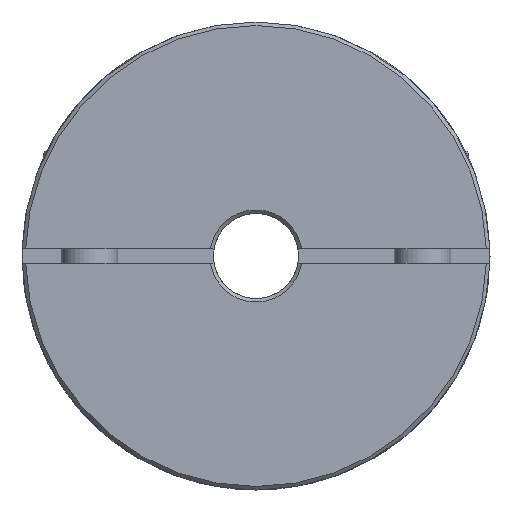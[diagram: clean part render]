
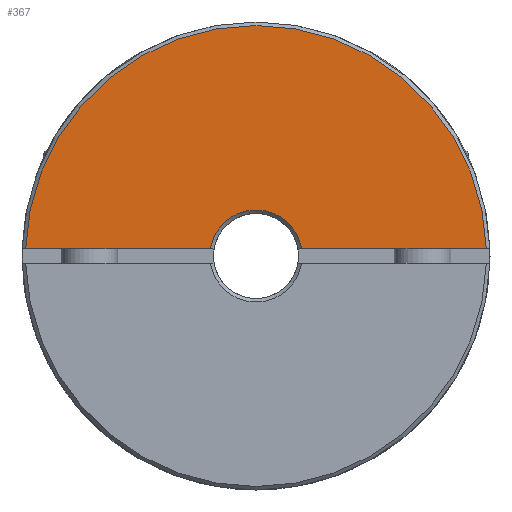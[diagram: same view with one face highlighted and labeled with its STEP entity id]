
A CAD part, left-side view. The second image highlights one B-rep face of the part: STEP entity #367.
In plain terms, the highlighted planar face has unit normal (-1, 0, 0) as drawn and (1, 0, 0) by its records, which use the part's own axes.
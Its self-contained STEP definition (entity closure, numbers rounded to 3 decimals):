
#367 = ADVANCED_FACE( '', ( #719 ), #720, .T. );
#719 = FACE_OUTER_BOUND( '', #1058, .T. );
#720 = PLANE( '', #1059 );
#1058 = EDGE_LOOP( '', ( #1610, #1611, #1612, #1613 ) );
#1059 = AXIS2_PLACEMENT_3D( '', #1614, #1615, #1616 );
#1610 = ORIENTED_EDGE( '', *, *, #1829, .F. );
#1611 = ORIENTED_EDGE( '', *, *, #1885, .T. );
#1612 = ORIENTED_EDGE( '', *, *, #1833, .F. );
#1613 = ORIENTED_EDGE( '', *, *, #1859, .T. );
#1614 = CARTESIAN_POINT( '', ( 24., 0., 33. ) );
#1615 = DIRECTION( '', ( 1., 0., 0. ) );
#1616 = DIRECTION( '', ( 0., 0., -1. ) );
#1829 = EDGE_CURVE( '', #2108, #2110, #2111, .T. );
#1833 = EDGE_CURVE( '', #2115, #2116, #2117, .T. );
#1859 = EDGE_CURVE( '', #2115, #2110, #2153, .F. );
#1885 = EDGE_CURVE( '', #2108, #2116, #2189, .T. );
#2108 = VERTEX_POINT( '', #2586 );
#2110 = VERTEX_POINT( '', #2591 );
#2111 = LINE( '', #2592, #2593 );
#2115 = VERTEX_POINT( '', #2601 );
#2116 = VERTEX_POINT( '', #2602 );
#2117 = LINE( '', #2603, #2604 );
#2153 = CIRCLE( '', #2748, 6.5 );
#2189 = CIRCLE( '', #2786, 32.5 );
#2586 = CARTESIAN_POINT( '', ( 24., 32.485, 1. ) );
#2591 = CARTESIAN_POINT( '', ( 24., 6.423, 1. ) );
#2592 = CARTESIAN_POINT( '', ( 24., 0., 1. ) );
#2593 = VECTOR( '', #3085, 1000. );
#2601 = CARTESIAN_POINT( '', ( 24., -6.423, 1. ) );
#2602 = CARTESIAN_POINT( '', ( 24., -32.485, 1. ) );
#2603 = CARTESIAN_POINT( '', ( 24., 0., 1. ) );
#2604 = VECTOR( '', #3087, 1000. );
#2748 = AXIS2_PLACEMENT_3D( '', #3116, #3117, #3118 );
#2786 = AXIS2_PLACEMENT_3D( '', #3154, #3155, #3156 );
#3085 = DIRECTION( '', ( 0., -1., 0. ) );
#3087 = DIRECTION( '', ( 0., -1., 0. ) );
#3116 = CARTESIAN_POINT( '', ( 24., 0., 0. ) );
#3117 = DIRECTION( '', ( 1., 0., 0. ) );
#3118 = DIRECTION( '', ( 0., 0., -1. ) );
#3154 = CARTESIAN_POINT( '', ( 24., 0., 0. ) );
#3155 = DIRECTION( '', ( 1., 0., 0. ) );
#3156 = DIRECTION( '', ( 0., 0., -1. ) );
